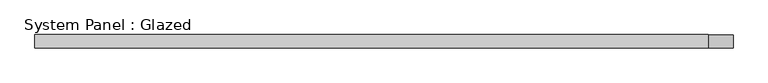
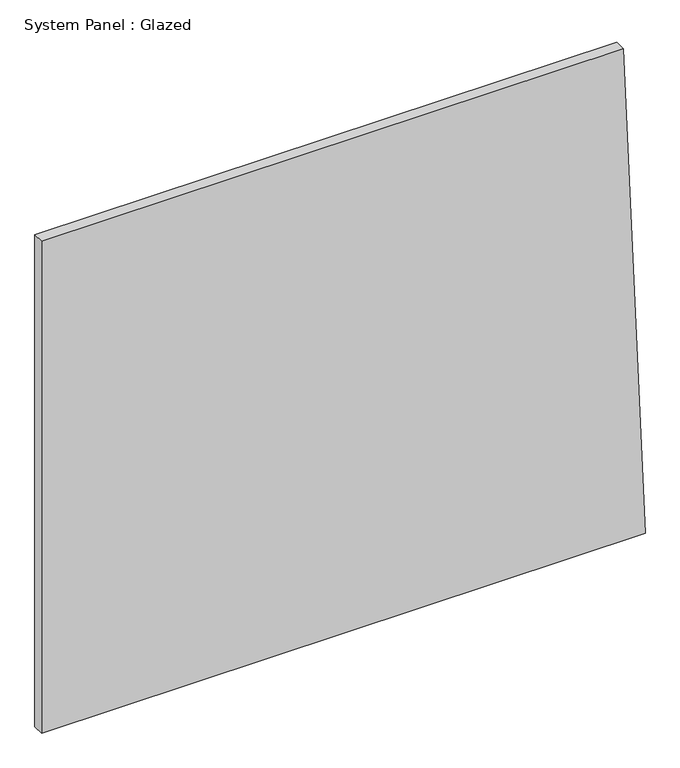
"""IFC4 building model written with IfcOpenShell, lengths in millimetres: plate geometry, System Panel : Glazed."""

import ifcopenshell
import ifcopenshell.guid

model = None  # the IFC model being written
_history = None  # IfcOwnerHistory: only IFC2X3 demands one
_inside = {}  # id of a spatial element -> (the spatial element, [elements in it])
_under = {}  # id of a project, library or spatial element -> (it, [spatial elements below it])
_declared = {}  # id of a project -> (the project, [libraries it declares])
_typed = {}  # id of a type object -> (the type object, [elements of that type])
_made_of = {}  # id of a material, layer set ... -> (it, [elements and type objects made of it])


def new_model(schema):
    """Start an empty IFC model of exactly this schema.

    Asked for "IFC4X3", IfcOpenShell would pick the latest addendum, in which some entities
    have other attributes; the version numbers below select the first issue.
    IFC2X3 requires an IfcOwnerHistory on every rooted entity: one is made here for all.
    """
    global model, _history
    if schema == "IFC4X3":
        model = ifcopenshell.file(schema_version=(4, 3, 0, 0))
    else:
        model = ifcopenshell.file(schema=schema)
    _inside.clear()
    _under.clear()
    _declared.clear()
    _typed.clear()
    _made_of.clear()
    _history = None
    if model.schema == "IFC2X3":
        org = make("IfcOrganization", Name="unknown")
        user = make(
            "IfcPersonAndOrganization",
            ThePerson=make("IfcPerson", FamilyName="unknown"),
            TheOrganization=org,
        )
        app = make(
            "IfcApplication",
            ApplicationDeveloper=org,
            Version="unknown",
            ApplicationFullName="unknown",
            ApplicationIdentifier="unknown",
        )
        _history = make(
            "IfcOwnerHistory",
            OwningUser=user,
            OwningApplication=app,
            ChangeAction="ADDED",
            CreationDate=0,
        )
    return model


def make(cls, **values):
    """One entity of the class cls with the attributes given. An attribute that is None is left unset."""
    return model.create_entity(
        cls, **{name: value for name, value in values.items() if value is not None}
    )


def rooted(cls, **values):
    """An entity with a GlobalId (a new one), such as an element, a storey or a relation."""
    return make(cls, GlobalId=ifcopenshell.guid.new(), OwnerHistory=_history, **values)


def si_unit(unit_type, name, prefix=None):
    """IfcSIUnit, for example si_unit("LENGTHUNIT", "METRE", prefix="MILLI")."""
    return make("IfcSIUnit", UnitType=unit_type, Prefix=prefix, Name=name)


def assignment(units):
    """IfcUnitAssignment: the units of a project."""
    return None if units is None else make("IfcUnitAssignment", Units=units)


def point(xyz):
    """IfcCartesianPoint."""
    return None if xyz is None else make("IfcCartesianPoint", Coordinates=xyz)


def direction(xyz):
    """IfcDirection."""
    return None if xyz is None else make("IfcDirection", DirectionRatios=xyz)


def frame(location, z_axis=None, x_axis=None):
    """IfcAxis2Placement3D, a coordinate frame: its origin and axes. An axis left out is left unset."""
    return make(
        "IfcAxis2Placement3D",
        Location=point(location),
        Axis=direction(z_axis),
        RefDirection=direction(x_axis),
    )


def origin():
    """The frame at (0, 0, 0) with its axes left unset."""
    return frame((0.0, 0.0, 0.0))


def place(relative_to, where):
    """IfcLocalPlacement: puts the frame where relative to a parent placement (None: the world)."""
    return make(
        "IfcLocalPlacement", PlacementRelTo=relative_to, RelativePlacement=where
    )


def context(
    kind, dimensions, precision=None, world=None, true_north=None, identifier=None
):
    """IfcGeometricRepresentationContext, for example the 3D "Model" context."""
    return make(
        "IfcGeometricRepresentationContext",
        ContextIdentifier=identifier,
        ContextType=kind,
        CoordinateSpaceDimension=dimensions,
        Precision=precision,
        WorldCoordinateSystem=world,
        TrueNorth=true_north,
    )


def project(units=None, contexts=None):
    """IfcProject with its units and contexts."""
    return rooted(
        "IfcProject",
        Name="project",
        RepresentationContexts=contexts,
        UnitsInContext=assignment(units),
    )


def spatial(cls, under=None, at=None, **own):
    """A site, building, storey or space (cls), placed at a placement, below another one or the project."""
    s = rooted(cls, ObjectPlacement=at, **own)
    if under is not None:
        _under.setdefault(under.id(), (under, []))[1].append(s)
    return s


def polyline(points):
    """IfcPolyline through the points."""
    return make("IfcPolyline", Points=[point(p) for p in points])


def outline(outer, holes=None, kind="AREA"):
    """IfcArbitraryClosedProfileDef: a profile drawn as a closed curve; with holes, ...WithVoids."""
    if holes is None:
        return make("IfcArbitraryClosedProfileDef", ProfileType=kind, OuterCurve=outer)
    return make(
        "IfcArbitraryProfileDefWithVoids",
        ProfileType=kind,
        OuterCurve=outer,
        InnerCurves=holes,
    )


def extrude(swept, where, along, depth):
    """IfcExtrudedAreaSolid: the profile swept, set in the frame where, extruded along a direction by depth."""
    return make(
        "IfcExtrudedAreaSolid",
        SweptArea=swept,
        Position=where,
        ExtrudedDirection=direction(along),
        Depth=depth,
    )


def shape(context_of_items, identifier, shape_type, items):
    """IfcShapeRepresentation: the items that make up one representation, for example the "Body"."""
    return make(
        "IfcShapeRepresentation",
        ContextOfItems=context_of_items,
        RepresentationIdentifier=identifier,
        RepresentationType=shape_type,
        Items=items,
    )


def source(mapping_origin, context_of_items, identifier, shape_type, items):
    """IfcRepresentationMap: a shape defined once, which mapped items show again and again."""
    return make(
        "IfcRepresentationMap",
        MappingOrigin=mapping_origin,
        MappedRepresentation=shape(context_of_items, identifier, shape_type, items),
    )


def transform(
    local_origin,
    x_axis=None,
    y_axis=None,
    z_axis=None,
    scale=None,
    scale2=None,
    scale3=None,
    uniform=True,
):
    """IfcCartesianTransformationOperator3D, or its non-uniform kind. x_axis, y_axis, z_axis: its Axis1, 2, 3."""
    if uniform:
        return make(
            "IfcCartesianTransformationOperator3D",
            Axis1=direction(x_axis),
            Axis2=direction(y_axis),
            LocalOrigin=point(local_origin),
            Scale=scale,
            Axis3=direction(z_axis),
        )
    return make(
        "IfcCartesianTransformationOperator3DnonUniform",
        Axis1=direction(x_axis),
        Axis2=direction(y_axis),
        LocalOrigin=point(local_origin),
        Scale=scale,
        Axis3=direction(z_axis),
        Scale2=scale2,
        Scale3=scale3,
    )


def mapped(mapping_source, mapping_target):
    """IfcMappedItem: shows the shape of a source again, moved by a transform."""
    return make(
        "IfcMappedItem", MappingSource=mapping_source, MappingTarget=mapping_target
    )


def made_of(thing, what):
    """Note that an element or type object is made of a material, layer set ...; save() writes the relation."""
    if what is not None:
        _made_of.setdefault(what.id(), (what, []))[1].append(thing)
    return thing


def element(
    cls,
    number,
    at=None,
    inside=None,
    cuts=None,
    type_object=None,
    material=None,
    context=None,
    identifier="Body",
    shape_type=None,
    held_by="IfcProductDefinitionShape",
    body=None,
    shapes=None,
    **own,
):
    """One element of the class cls, such as IfcWall. Its Tag is "e" and its number.

    at: its placement. inside: the storey or other place that contains it. cuts: it is an
    opening in that element (IfcRelVoidsElement). A single representation is given by context,
    identifier, shape_type and body (its items); several are given by shapes. held_by: the class
    of the entity that holds the representations. save() writes the other relations.
    """
    e = rooted(cls, Tag="e%d" % number, ObjectPlacement=at, **own)
    if body is not None:
        shapes = [shape(context, identifier, shape_type, body)]
    if shapes is not None:
        e.Representation = make(held_by, Representations=shapes)
    if inside is not None:
        _inside.setdefault(inside.id(), (inside, []))[1].append(e)
    if cuts is not None:
        rooted(
            "IfcRelVoidsElement", RelatingBuildingElement=cuts, RelatedOpeningElement=e
        )
    if type_object is not None:
        _typed.setdefault(type_object.id(), (type_object, []))[1].append(e)
    return made_of(e, material)


def aggregate(whole, parts):
    """IfcRelAggregates: a whole, such as a stair, and the parts it consists of."""
    return rooted("IfcRelAggregates", RelatingObject=whole, RelatedObjects=parts)


def save(model, path):
    """Write the relations noted so far, then the file.

    IfcRelAggregates (storeys below a building ...), IfcRelContainedInSpatialStructure (elements
    in a storey), IfcRelDefinesByType, IfcRelAssociatesMaterial and IfcRelDeclares: one each for
    every whole, place, type object, material and project.
    """
    for whole, parts in _under.values():
        aggregate(whole, parts)
    for where, things in _inside.values():
        rooted(
            "IfcRelContainedInSpatialStructure",
            RelatedElements=things,
            RelatingStructure=where,
        )
    for kind, things in _typed.values():
        rooted("IfcRelDefinesByType", RelatedObjects=things, RelatingType=kind)
    for what, things in _made_of.values():
        rooted("IfcRelAssociatesMaterial", RelatedObjects=things, RelatingMaterial=what)
    for by, libraries in _declared.values():
        rooted("IfcRelDeclares", RelatingContext=by, RelatedDefinitions=libraries)
    model.write(path)


def system_panel_glazed_41ad27e7(model_context):
    return source(origin(), model_context, "Body", "SweptSolid", [
        extrude(outline(polyline([(0.0, -671.5434171), (0.0, 671.5434171), (1155.7, 623.4046595), (1155.7, -671.5434171), (0.0, -671.5434171)])), frame((0.0, 19.05, 0.0), z_axis=(0.0, 1.0, 0.0), x_axis=(0.0, 0.0, 1.0)), (0.0, 0.0, 1.0), 25.4),
    ])


if __name__ == "__main__":
    model = new_model("IFC4")
    model_context = context("Model", 3, world=origin())
    ifc_project = project(units=[si_unit("LENGTHUNIT", "METRE", prefix="MILLI")], contexts=[model_context])
    site = spatial("IfcSite", under=ifc_project)
    building = spatial("IfcBuilding", under=site)
    placement = place(None, origin())
    system_panel_glazed_shape = system_panel_glazed_41ad27e7(model_context)
    element("IfcPlate", 1, ObjectType="System Panel : Glazed", at=placement, inside=building, context=model_context, shape_type="MappedRepresentation", body=[
        mapped(system_panel_glazed_shape, transform((0.0, 0.0, 0.0), x_axis=(1.0, 0.0, 0.0), y_axis=(0.0, 1.0, 0.0), z_axis=(0.0, 0.0, 1.0))),
    ])
    save(model, "model.ifc")
